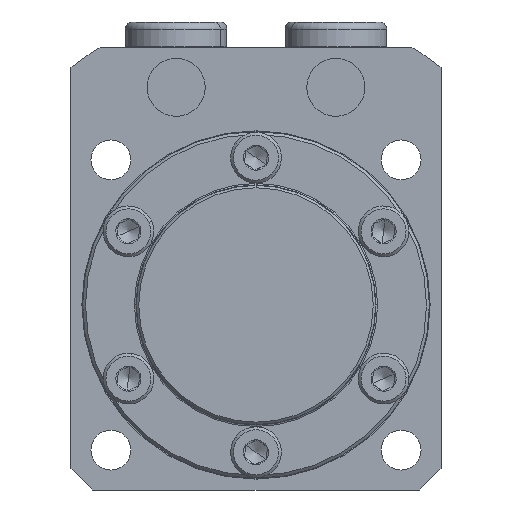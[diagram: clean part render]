
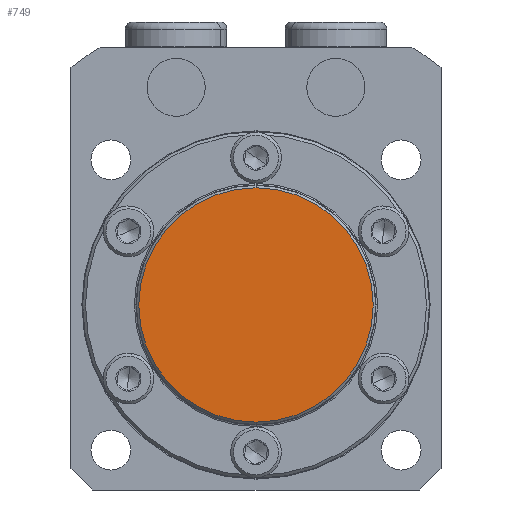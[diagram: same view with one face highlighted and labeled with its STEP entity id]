
A CAD part, front view. The second image highlights one B-rep face of the part: STEP entity #749.
In plain terms, the highlighted planar face has unit normal (0, -1, 0).
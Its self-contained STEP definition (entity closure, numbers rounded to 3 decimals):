
#442 = DIRECTION ( 'NONE',  ( 0., -1., 0. ) ) ;
#744 = AXIS2_PLACEMENT_3D ( 'NONE', #5456, #2015, #6037 ) ;
#749 = ADVANCED_FACE ( 'NONE', ( #7489 ), #6108, .T. ) ;
#1407 = CIRCLE ( 'NONE', #744, 16.15 ) ;
#1534 = EDGE_LOOP ( 'NONE', ( #4519, #4322 ) ) ;
#1889 = VERTEX_POINT ( 'NONE', #1911 ) ;
#1911 = CARTESIAN_POINT ( 'NONE',  ( 0., -8.5, 16.15 ) ) ;
#2015 = DIRECTION ( 'NONE',  ( 0., -1., 0. ) ) ;
#2172 = CARTESIAN_POINT ( 'NONE',  ( 0., -8.5, -16.15 ) ) ;
#2669 = DIRECTION ( 'NONE',  ( 0., -1., 0. ) ) ;
#2686 = CIRCLE ( 'NONE', #2805, 16.15 ) ;
#2805 = AXIS2_PLACEMENT_3D ( 'NONE', #3917, #442, #4496 ) ;
#3917 = CARTESIAN_POINT ( 'NONE',  ( 0., -8.5, 0. ) ) ;
#4322 = ORIENTED_EDGE ( 'NONE', *, *, #5003, .T. ) ;
#4496 = DIRECTION ( 'NONE',  ( 0., 0., -1. ) ) ;
#4508 = VERTEX_POINT ( 'NONE', #2172 ) ;
#4519 = ORIENTED_EDGE ( 'NONE', *, *, #6522, .T. ) ;
#4967 = CARTESIAN_POINT ( 'NONE',  ( 0., -8.5, 0. ) ) ;
#5003 = EDGE_CURVE ( 'NONE', #4508, #1889, #1407, .T. ) ;
#5020 = AXIS2_PLACEMENT_3D ( 'NONE', #4967, #2669, #6699 ) ;
#5456 = CARTESIAN_POINT ( 'NONE',  ( 0., -8.5, 0. ) ) ;
#6037 = DIRECTION ( 'NONE',  ( 0., 0., -1. ) ) ;
#6108 = PLANE ( 'NONE',  #5020 ) ;
#6522 = EDGE_CURVE ( 'NONE', #1889, #4508, #2686, .T. ) ;
#6699 = DIRECTION ( 'NONE',  ( 0., 0., -1. ) ) ;
#7489 = FACE_OUTER_BOUND ( 'NONE', #1534, .T. ) ;
